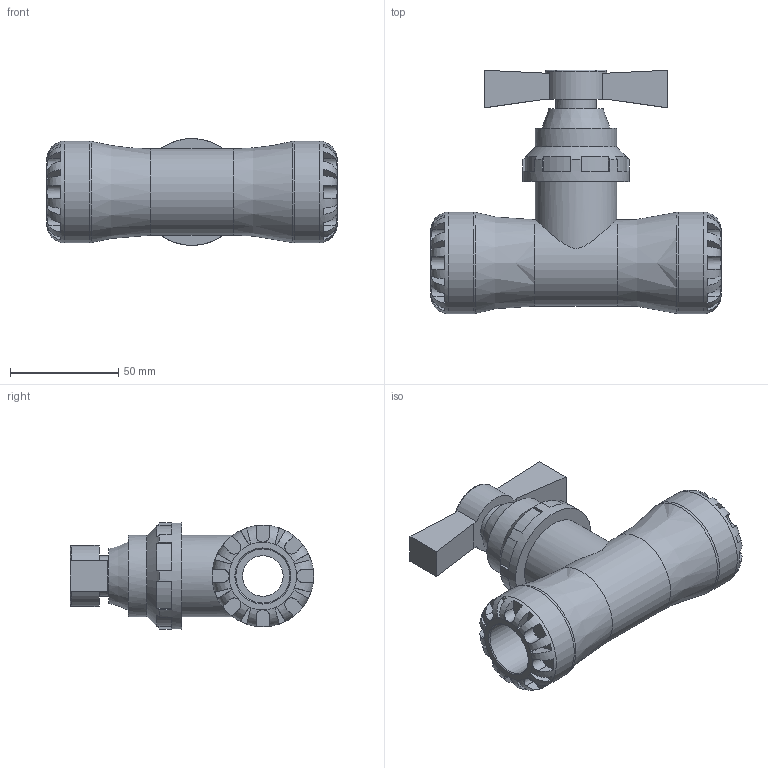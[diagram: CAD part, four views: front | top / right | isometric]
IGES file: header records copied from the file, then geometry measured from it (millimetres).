
Global section: file name: 34100025.ipt; native system: Autodesk Inventor 2015; preprocessor: unknown; author: KIM; date: 20170212.120057; units: millimetre
Bounding box: 134 x 112.5 x 49.33 mm (x, y, z)
Volume: 216910.8 mm3; surface area: 45526.8 mm2
Topology: 1 solids, 1 shells, 205 faces, 546 edges, 349 vertices
Faces by surface type: plane 143, cylinder 32, revolution 28, cone 2
Full cylindrical faces by diameter (mm): 18.8 x1, 28.2 x1, 37.6 x2, 39.95 x1, 47 x2, 49.35 x1
